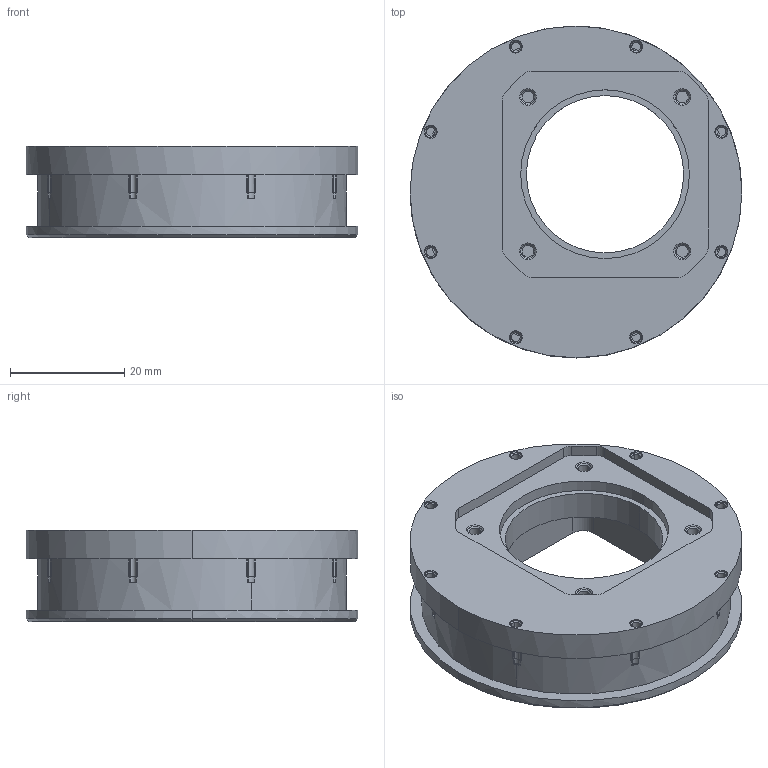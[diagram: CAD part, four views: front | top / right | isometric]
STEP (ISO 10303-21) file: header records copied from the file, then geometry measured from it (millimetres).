
FILE_DESCRIPTION(/* description */ ('VariCAD 2008 3.04 AP-203'),/* implementation_level */ '2;1');
FILE_NAME(/* name */ '0353-13-03',/* time_stamp */ '2009-04-22T19:24:04-06:00',/* author */ (''),/* organization */ (''),/* preprocessor_version */ 'ST-DEVELOPER v12',/* originating_system */ 'VariCAD 2008 3.04; kernel version (20080715)',/* authorisation */ '');
FILE_SCHEMA (('CONFIG_CONTROL_DESIGN'));
Length unit declared in the file: millimetre
Products named in the file (1): Part
Bounding box: 58 x 58 x 16 mm (x, y, z)
Volume: 22156.7 mm3; surface area: 11086.3 mm2
Topology: 17 solids, 17 shells, 315 faces, 780 edges, 488 vertices
Faces by surface type: cylinder 170, plane 79, cone 66
Entity records: 9676 total; most frequent: DIRECTION 1906, CARTESIAN_POINT 1601, ORIENTED_EDGE 1560, AXIS2_PLACEMENT_3D 793, EDGE_CURVE 780, VERTEX_POINT 488, CIRCLE 460, EDGE_LOOP 354
